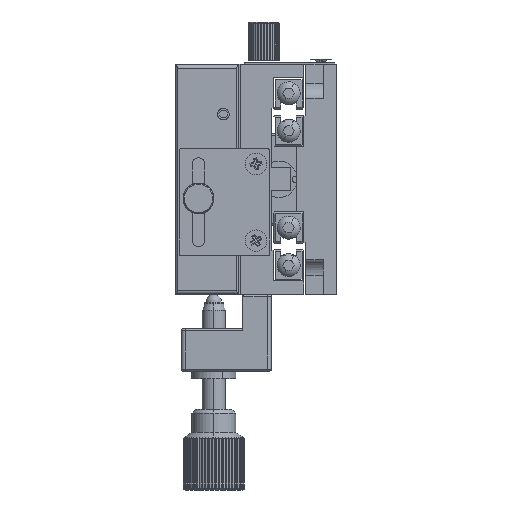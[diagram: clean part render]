
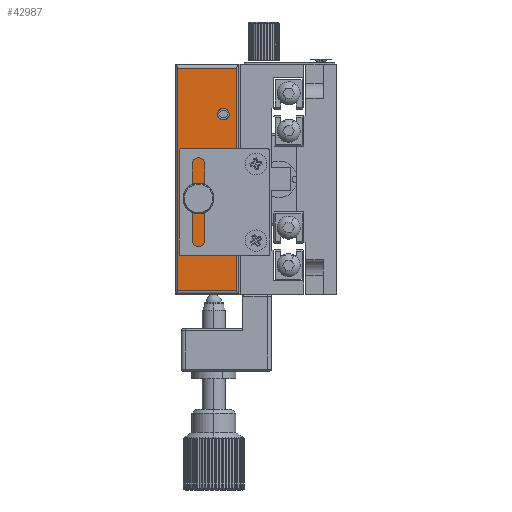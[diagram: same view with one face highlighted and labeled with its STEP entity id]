
A CAD part, left-side view. The second image highlights one B-rep face of the part: STEP entity #42987.
In plain terms, the highlighted planar face has unit normal (-1, 0, 0).
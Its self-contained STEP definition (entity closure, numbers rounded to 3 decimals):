
#506 = AXIS2_PLACEMENT_3D ( 'NONE', #23729, #23872, #24009 ) ;
#510 = AXIS2_PLACEMENT_3D ( 'NONE', #24236, #24258, #24269 ) ;
#518 = AXIS2_PLACEMENT_3D ( 'NONE', #24292, #24293, #24276 ) ;
#522 = AXIS2_PLACEMENT_3D ( 'NONE', #24306, #24294, #24270 ) ;
#525 = AXIS2_PLACEMENT_3D ( 'NONE', #24229, #24223, #24224 ) ;
#535 = AXIS2_PLACEMENT_3D ( 'NONE', #44304, #44288, #44290 ) ;
#543 = AXIS2_PLACEMENT_3D ( 'NONE', #44307, #44246, #44336 ) ;
#567 = AXIS2_PLACEMENT_3D ( 'NONE', #42721, #42719, #42740 ) ;
#13297 = VERTEX_POINT ( 'NONE', #16797 ) ;
#13317 = VERTEX_POINT ( 'NONE', #16780 ) ;
#13331 = VERTEX_POINT ( 'NONE', #16831 ) ;
#13337 = VERTEX_POINT ( 'NONE', #16855 ) ;
#13340 = VERTEX_POINT ( 'NONE', #16835 ) ;
#13356 = VERTEX_POINT ( 'NONE', #16867 ) ;
#13367 = VERTEX_POINT ( 'NONE', #16870 ) ;
#13370 = VERTEX_POINT ( 'NONE', #16860 ) ;
#13376 = VERTEX_POINT ( 'NONE', #16843 ) ;
#13391 = VERTEX_POINT ( 'NONE', #16897 ) ;
#13401 = VERTEX_POINT ( 'NONE', #16895 ) ;
#13409 = VERTEX_POINT ( 'NONE', #16909 ) ;
#16780 = CARTESIAN_POINT ( 'NONE',  ( -69.485, 9.422, 17.46 ) ) ;
#16797 = CARTESIAN_POINT ( 'NONE',  ( -69.485, -6.078, -40.54 ) ) ;
#16831 = CARTESIAN_POINT ( 'NONE',  ( -69.485, -2.578, -30.04 ) ) ;
#16835 = CARTESIAN_POINT ( 'NONE',  ( -69.485, -2.578, -27.04 ) ) ;
#16843 = CARTESIAN_POINT ( 'NONE',  ( -69.485, -2.578, 6.96 ) ) ;
#16855 = CARTESIAN_POINT ( 'NONE',  ( -69.485, -2.578, -13.04 ) ) ;
#16860 = CARTESIAN_POINT ( 'NONE',  ( -69.485, -6.078, 17.46 ) ) ;
#16867 = CARTESIAN_POINT ( 'NONE',  ( -69.485, -2.578, 3.96 ) ) ;
#16870 = CARTESIAN_POINT ( 'NONE',  ( -69.485, -2.578, -10.04 ) ) ;
#16895 = CARTESIAN_POINT ( 'NONE',  ( -69.485, 9.422, -40.54 ) ) ;
#16897 = CARTESIAN_POINT ( 'NONE',  ( -69.485, 3.922, -18.04 ) ) ;
#16909 = CARTESIAN_POINT ( 'NONE',  ( -69.485, 3.922, -15.04 ) ) ;
#20821 = CIRCLE ( 'NONE', #525, 1.5 ) ;
#20856 = CIRCLE ( 'NONE', #522, 1.5 ) ;
#20871 = LINE ( 'NONE', #24337, #20874 ) ;
#20874 = VECTOR ( 'NONE', #24346, 1000. ) ;
#20908 = CIRCLE ( 'NONE', #518, 1.5 ) ;
#20912 = CIRCLE ( 'NONE', #510, 1.5 ) ;
#20920 = LINE ( 'NONE', #44262, #20941 ) ;
#20938 = CIRCLE ( 'NONE', #506, 1.5 ) ;
#20941 = VECTOR ( 'NONE', #44303, 1000. ) ;
#20947 = CIRCLE ( 'NONE', #543, 1.5 ) ;
#20958 = CIRCLE ( 'NONE', #535, 1.5 ) ;
#20964 = LINE ( 'NONE', #44257, #20974 ) ;
#20974 = VECTOR ( 'NONE', #44341, 1000. ) ;
#20983 = LINE ( 'NONE', #42693, #21018 ) ;
#20993 = CIRCLE ( 'NONE', #567, 1.5 ) ;
#21018 = VECTOR ( 'NONE', #42701, 1000. ) ;
#21327 = FACE_BOUND ( 'NONE', #27337, .T. ) ;
#21348 = FACE_BOUND ( 'NONE', #27226, .T. ) ;
#21349 = FACE_BOUND ( 'NONE', #27234, .T. ) ;
#21352 = FACE_OUTER_BOUND ( 'NONE', #27288, .T. ) ;
#21353 = FACE_BOUND ( 'NONE', #27315, .T. ) ;
#23729 = CARTESIAN_POINT ( 'NONE',  ( -69.485, -2.578, -28.54 ) ) ;
#23872 = DIRECTION ( 'NONE',  ( -1., 0., 0. ) ) ;
#24009 = DIRECTION ( 'NONE',  ( 0., 0., 1. ) ) ;
#24223 = DIRECTION ( 'NONE',  ( -1., 0., 0. ) ) ;
#24224 = DIRECTION ( 'NONE',  ( 0., 0., 1. ) ) ;
#24229 = CARTESIAN_POINT ( 'NONE',  ( -69.485, -2.578, -11.54 ) ) ;
#24236 = CARTESIAN_POINT ( 'NONE',  ( -69.485, -2.578, 5.46 ) ) ;
#24258 = DIRECTION ( 'NONE',  ( -1., 0., 0. ) ) ;
#24269 = DIRECTION ( 'NONE',  ( 0., 0., 1. ) ) ;
#24270 = DIRECTION ( 'NONE',  ( 0., 0., 1. ) ) ;
#24276 = DIRECTION ( 'NONE',  ( 0., 0., 1. ) ) ;
#24292 = CARTESIAN_POINT ( 'NONE',  ( -69.485, 3.922, -16.54 ) ) ;
#24293 = DIRECTION ( 'NONE',  ( -1., 0., 0. ) ) ;
#24294 = DIRECTION ( 'NONE',  ( -1., 0., 0. ) ) ;
#24306 = CARTESIAN_POINT ( 'NONE',  ( -69.485, -2.578, 5.46 ) ) ;
#24337 = CARTESIAN_POINT ( 'NONE',  ( -69.485, 9.422, -40.54 ) ) ;
#24346 = DIRECTION ( 'NONE',  ( 0., 0., -1. ) ) ;
#25989 = AXIS2_PLACEMENT_3D ( 'NONE', #44230, #44114, #44116 ) ;
#27226 = EDGE_LOOP ( 'NONE', ( #27843, #27893 ) ) ;
#27234 = EDGE_LOOP ( 'NONE', ( #27747, #27749 ) ) ;
#27288 = EDGE_LOOP ( 'NONE', ( #27744, #27745, #27735, #27754 ) ) ;
#27315 = EDGE_LOOP ( 'NONE', ( #27884, #27902 ) ) ;
#27337 = EDGE_LOOP ( 'NONE', ( #27788, #27757 ) ) ;
#27735 = ORIENTED_EDGE ( 'NONE', *, *, #33802, .T. ) ;
#27744 = ORIENTED_EDGE ( 'NONE', *, *, #33845, .T. ) ;
#27745 = ORIENTED_EDGE ( 'NONE', *, *, #33782, .T. ) ;
#27747 = ORIENTED_EDGE ( 'NONE', *, *, #33806, .F. ) ;
#27749 = ORIENTED_EDGE ( 'NONE', *, *, #33793, .F. ) ;
#27754 = ORIENTED_EDGE ( 'NONE', *, *, #33797, .T. ) ;
#27757 = ORIENTED_EDGE ( 'NONE', *, *, #33768, .F. ) ;
#27788 = ORIENTED_EDGE ( 'NONE', *, *, #33862, .F. ) ;
#27843 = ORIENTED_EDGE ( 'NONE', *, *, #33761, .F. ) ;
#27884 = ORIENTED_EDGE ( 'NONE', *, *, #33803, .F. ) ;
#27893 = ORIENTED_EDGE ( 'NONE', *, *, #33751, .F. ) ;
#27902 = ORIENTED_EDGE ( 'NONE', *, *, #33743, .F. ) ;
#33743 = EDGE_CURVE ( 'NONE', #13337, #13367, #20821, .T. ) ;
#33751 = EDGE_CURVE ( 'NONE', #13356, #13376, #20912, .T. ) ;
#33761 = EDGE_CURVE ( 'NONE', #13376, #13356, #20856, .T. ) ;
#33768 = EDGE_CURVE ( 'NONE', #13391, #13409, #20908, .T. ) ;
#33782 = EDGE_CURVE ( 'NONE', #13317, #13401, #20871, .T. ) ;
#33793 = EDGE_CURVE ( 'NONE', #13331, #13340, #20938, .T. ) ;
#33797 = EDGE_CURVE ( 'NONE', #13297, #13370, #20920, .T. ) ;
#33802 = EDGE_CURVE ( 'NONE', #13401, #13297, #20964, .T. ) ;
#33803 = EDGE_CURVE ( 'NONE', #13367, #13337, #20958, .T. ) ;
#33806 = EDGE_CURVE ( 'NONE', #13340, #13331, #20947, .T. ) ;
#33845 = EDGE_CURVE ( 'NONE', #13370, #13317, #20983, .T. ) ;
#33862 = EDGE_CURVE ( 'NONE', #13409, #13391, #20993, .T. ) ;
#42693 = CARTESIAN_POINT ( 'NONE',  ( -69.485, 1.672, 17.46 ) ) ;
#42701 = DIRECTION ( 'NONE',  ( 0., 1., 0. ) ) ;
#42719 = DIRECTION ( 'NONE',  ( -1., 0., 0. ) ) ;
#42721 = CARTESIAN_POINT ( 'NONE',  ( -69.485, 3.922, -16.54 ) ) ;
#42740 = DIRECTION ( 'NONE',  ( 0., 0., 1. ) ) ;
#42987 = ADVANCED_FACE ( 'NONE', ( #21327, #21349, #21352, #21348, #21353 ), #44129, .F. ) ;
#44114 = DIRECTION ( 'NONE',  ( 1., 0., 0. ) ) ;
#44116 = DIRECTION ( 'NONE',  ( 0., 0., -1. ) ) ;
#44129 = PLANE ( 'NONE',  #25989 ) ;
#44230 = CARTESIAN_POINT ( 'NONE',  ( -69.485, 1.672, -41.54 ) ) ;
#44246 = DIRECTION ( 'NONE',  ( -1., 0., 0. ) ) ;
#44257 = CARTESIAN_POINT ( 'NONE',  ( -69.485, -6.578, -40.54 ) ) ;
#44262 = CARTESIAN_POINT ( 'NONE',  ( -69.485, -6.078, -41.54 ) ) ;
#44288 = DIRECTION ( 'NONE',  ( -1., 0., 0. ) ) ;
#44290 = DIRECTION ( 'NONE',  ( 0., 0., 1. ) ) ;
#44303 = DIRECTION ( 'NONE',  ( 0., 0., 1. ) ) ;
#44304 = CARTESIAN_POINT ( 'NONE',  ( -69.485, -2.578, -11.54 ) ) ;
#44307 = CARTESIAN_POINT ( 'NONE',  ( -69.485, -2.578, -28.54 ) ) ;
#44336 = DIRECTION ( 'NONE',  ( 0., 0., 1. ) ) ;
#44341 = DIRECTION ( 'NONE',  ( 0., -1., 0. ) ) ;
